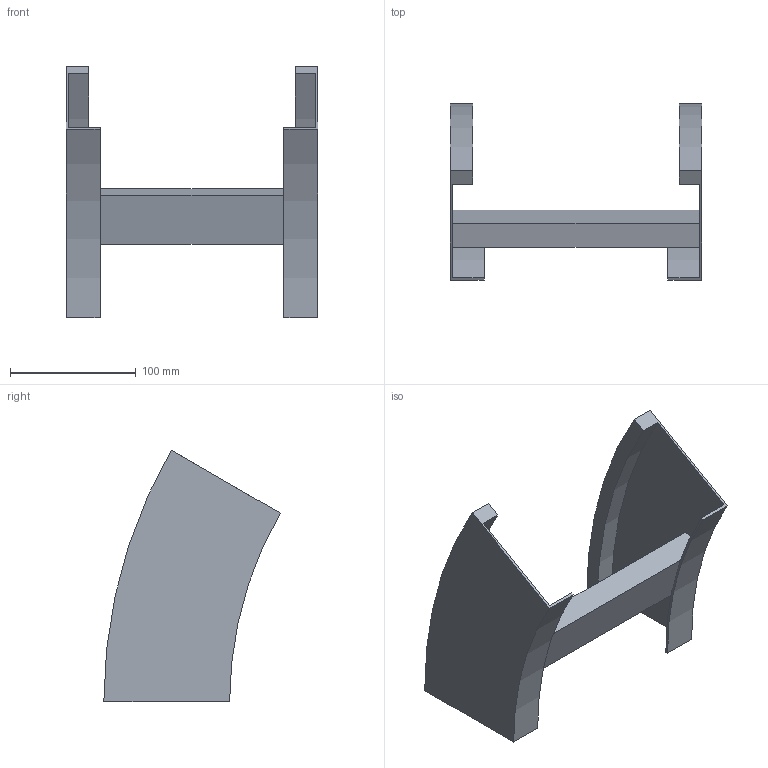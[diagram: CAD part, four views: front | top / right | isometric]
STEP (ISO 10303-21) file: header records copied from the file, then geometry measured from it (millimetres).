
FILE_DESCRIPTION (( 'STEP AP214' ), '1' );
FILE_NAME ('B2_35B3D200.step', '2025-02-21T14:46:42', ( '' ), ( '' ), 'SwSTEP 2.0', 'SolidWorks 2023', '' );
FILE_SCHEMA (( 'AUTOMOTIVE_DESIGN' ));
Length unit declared in the file: millimetre
Products named in the file (3): B2_LONGH.DISCESA_30°_H100_R300; TRAVERSINO_200; B2_35B3D200
Assembly tree (3 placements, depth 2):
  B2_35B3D200
    B2_LONGH.DISCESA_30°_H100_R300  x2
    TRAVERSINO_200
Bounding box: 200 x 140.19 x 200 mm (x, y, z)
Volume: 327042.6 mm3; surface area: 130837.3 mm2
Topology: 3 solids, 3 shells, 26 faces, 60 edges, 40 vertices
Faces by surface type: plane 18, cylinder 8
Entity records: 544 total; most frequent: DIRECTION 88, CARTESIAN_POINT 82, ORIENTED_EDGE 72, EDGE_CURVE 36, AXIS2_PLACEMENT_3D 30, VECTOR 28, LINE 28, VERTEX_POINT 24
